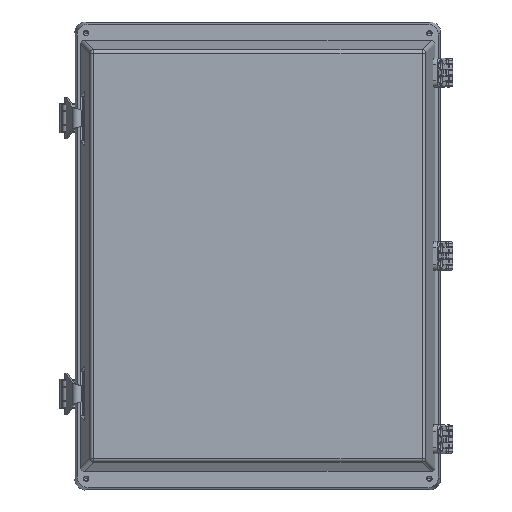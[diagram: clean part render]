
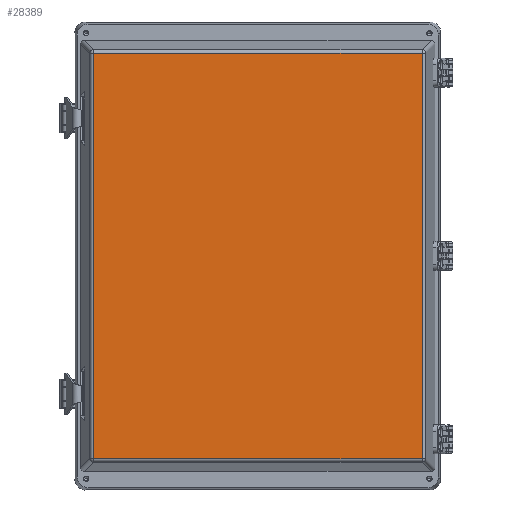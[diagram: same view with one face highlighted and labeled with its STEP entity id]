
A CAD part, top view. The second image highlights one B-rep face of the part: STEP entity #28389.
In plain terms, the highlighted planar face has unit normal (0, 0, 1) as drawn and (0, -1, 0) by its records, which use the part's own axes.
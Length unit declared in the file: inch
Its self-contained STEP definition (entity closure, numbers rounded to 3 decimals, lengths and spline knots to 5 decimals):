
#47 = CARTESIAN_POINT ( 'NONE',  ( 6.94038, -2.25, 5.62788 ) ) ;
#2268 = DIRECTION ( 'NONE',  ( 0., -1., 0. ) ) ;
#3096 = EDGE_LOOP ( 'NONE', ( #19044, #52815, #51434, #46520 ) ) ;
#5554 = AXIS2_PLACEMENT_3D ( 'NONE', #16694, #2268, #7540 ) ;
#7249 = VERTEX_POINT ( 'NONE', #12228 ) ;
#7338 = PLANE ( 'NONE',  #5554 ) ;
#7509 = LINE ( 'NONE', #27929, #29532 ) ;
#7540 = DIRECTION ( 'NONE',  ( 0., 0., -1. ) ) ;
#7641 = VERTEX_POINT ( 'NONE', #47 ) ;
#10116 = EDGE_CURVE ( 'NONE', #33064, #7641, #20088, .T. ) ;
#10514 = VECTOR ( 'NONE', #61335, 39.37008 ) ;
#12228 = CARTESIAN_POINT ( 'NONE',  ( -6.94038, -2.25, 5.62788 ) ) ;
#16694 = CARTESIAN_POINT ( 'NONE',  ( -7.375, -2.25, -6.0625 ) ) ;
#19027 = EDGE_CURVE ( 'NONE', #7641, #7249, #43463, .T. ) ;
#19044 = ORIENTED_EDGE ( 'NONE', *, *, #10116, .T. ) ;
#20088 = LINE ( 'NONE', #30811, #31418 ) ;
#22464 = EDGE_CURVE ( 'NONE', #59021, #33064, #7509, .T. ) ;
#27929 = CARTESIAN_POINT ( 'NONE',  ( 7.04527, -2.25, -5.62788 ) ) ;
#28389 = ADVANCED_FACE ( 'NONE', ( #48487 ), #7338, .T. ) ;
#28738 = EDGE_CURVE ( 'NONE', #7249, #59021, #49208, .T. ) ;
#29532 = VECTOR ( 'NONE', #42172, 39.37008 ) ;
#30652 = CARTESIAN_POINT ( 'NONE',  ( 6.94038, -2.25, -5.62788 ) ) ;
#30811 = CARTESIAN_POINT ( 'NONE',  ( 6.94038, -2.25, 5.73277 ) ) ;
#31418 = VECTOR ( 'NONE', #58629, 39.37008 ) ;
#33064 = VERTEX_POINT ( 'NONE', #30652 ) ;
#39137 = CARTESIAN_POINT ( 'NONE',  ( -6.94038, -2.25, -5.62788 ) ) ;
#42172 = DIRECTION ( 'NONE',  ( 1., 0., 0. ) ) ;
#43463 = LINE ( 'NONE', #45144, #62516 ) ;
#45144 = CARTESIAN_POINT ( 'NONE',  ( -7.04527, -2.25, 5.62788 ) ) ;
#46520 = ORIENTED_EDGE ( 'NONE', *, *, #22464, .T. ) ;
#48487 = FACE_OUTER_BOUND ( 'NONE', #3096, .T. ) ;
#49208 = LINE ( 'NONE', #51510, #10514 ) ;
#51434 = ORIENTED_EDGE ( 'NONE', *, *, #28738, .T. ) ;
#51510 = CARTESIAN_POINT ( 'NONE',  ( -6.94038, -2.25, -5.73277 ) ) ;
#52815 = ORIENTED_EDGE ( 'NONE', *, *, #19027, .T. ) ;
#54325 = DIRECTION ( 'NONE',  ( -1., 0., 0. ) ) ;
#58629 = DIRECTION ( 'NONE',  ( 0., 0., 1. ) ) ;
#59021 = VERTEX_POINT ( 'NONE', #39137 ) ;
#61335 = DIRECTION ( 'NONE',  ( 0., 0., -1. ) ) ;
#62516 = VECTOR ( 'NONE', #54325, 39.37008 ) ;
